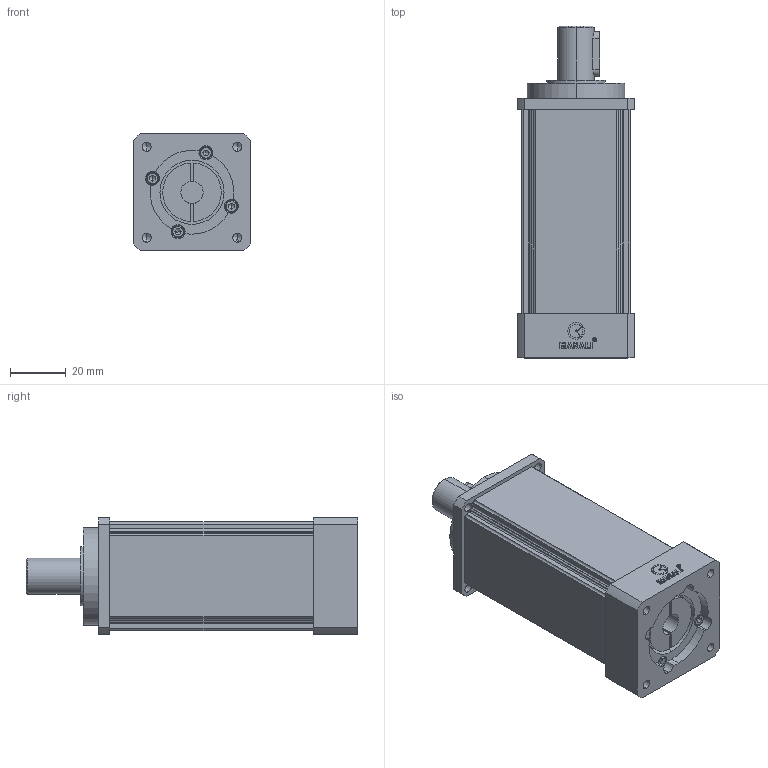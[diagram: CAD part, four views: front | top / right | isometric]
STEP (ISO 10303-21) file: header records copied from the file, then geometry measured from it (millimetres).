
FILE_DESCRIPTION (( 'STEP AP214' ), '1' );
FILE_NAME ('MAB-042-L2.step', '2020-06-27T08:41:40', ( '' ), ( '' ), 'SwSTEP 2.0', 'SolidWorks 2016', '' );
FILE_SCHEMA (( 'AUTOMOTIVE_DESIGN' ));
Length unit declared in the file: millimetre
Products named in the file (1): MAB-042-L2
Bounding box: 42 x 119 x 42.2 mm (x, y, z)
Volume: 144072.7 mm3; surface area: 23064.1 mm2
Topology: 1 solids, 1 shells, 454 faces, 1210 edges, 785 vertices
Faces by surface type: plane 250, cylinder 105, bspline 71, cone 28
Entity records: 19512 total; most frequent: CARTESIAN_POINT 3575, ORIENTED_EDGE 2384, DIRECTION 2032, EDGE_CURVE 1192, LINE 796, VECTOR 796, VERTEX_POINT 785, AXIS2_PLACEMENT_3D 618
